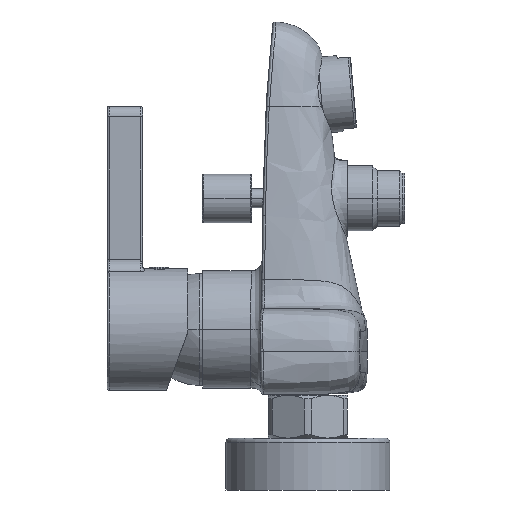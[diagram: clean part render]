
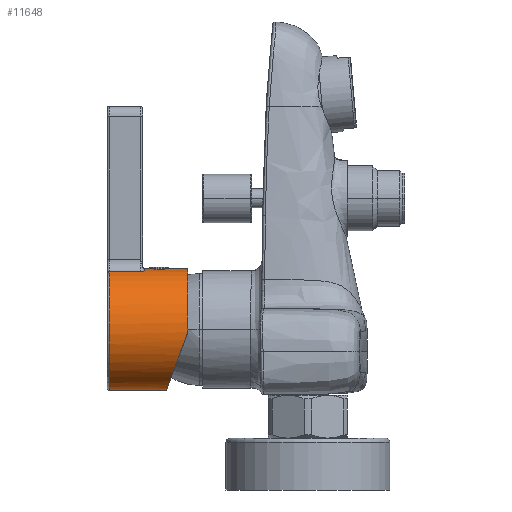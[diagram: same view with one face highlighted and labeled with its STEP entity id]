
A CAD part, left-side view. The second image highlights one B-rep face of the part: STEP entity #11648.
In plain terms, the highlighted cylindrical face has radius 22.25 mm (diameter 44.5 mm), a partial arc.
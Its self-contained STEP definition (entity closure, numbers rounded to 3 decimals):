
#3071=CARTESIAN_POINT('',(0.,51.115,
-66.536));
#3072=CARTESIAN_POINT('',(-1.831,51.115,
-66.536));
#3073=CARTESIAN_POINT('',(-5.055,50.958,
-66.108));
#3074=CARTESIAN_POINT('',(-9.126,50.446,
-64.717));
#3075=CARTESIAN_POINT('',(-12.612,49.724,
-62.754));
#3076=CARTESIAN_POINT('',(-15.601,48.822,
-60.304));
#3077=CARTESIAN_POINT('',(-18.119,47.751,
-57.392));
#3078=CARTESIAN_POINT('',(-20.151,46.505,
-54.005));
#3079=CARTESIAN_POINT('',(-21.63,45.059,
-50.077));
#3080=CARTESIAN_POINT('',(-22.15,43.928,
-47.002));
#3081=CARTESIAN_POINT('',(-22.228,43.297,
-45.286));
#3102=CARTESIAN_POINT('',(0.,43.297,
-44.286));
#3103=DIRECTION('',(0.,1.,0.));
#3104=DIRECTION('',(-0.999,0.,-0.045));
#3105=AXIS2_PLACEMENT_3D('',#3102,#3103,#3104);
#3107=CARTESIAN_POINT('',(0.,50.447,
-22.036));
#3132=CARTESIAN_POINT('',(0.,57.147,
-22.036));
#3134=DIRECTION('',(0.,1.,0.));
#3135=VECTOR('',#3134,1.85);
#3136=CARTESIAN_POINT('',(0.,57.147,
-22.036));
#3137=LINE('',#3136,#3135);
#3158=DIRECTION('',(0.,1.,0.));
#3159=VECTOR('',#3158,7.15);
#3160=CARTESIAN_POINT('',(0.,43.297,
-22.036));
#3161=LINE('',#3160,#3159);
#3166=CARTESIAN_POINT('',(-3.35,53.797,-22.29));
#3167=CARTESIAN_POINT('',(-3.35,53.622,-22.29));
#3168=CARTESIAN_POINT('',(-3.323,53.277,
-22.285));
#3169=CARTESIAN_POINT('',(-3.2,52.757,
-22.267));
#3170=CARTESIAN_POINT('',(-2.995,52.265,
-22.238));
#3171=CARTESIAN_POINT('',(-2.721,51.819,
-22.202));
#3172=CARTESIAN_POINT('',(-2.378,51.417,
-22.162));
#3173=CARTESIAN_POINT('',(-1.97,51.069,
-22.122));
#3174=CARTESIAN_POINT('',(-1.511,50.791,
-22.086));
#3175=CARTESIAN_POINT('',(-1.028,50.594,
-22.058));
#3176=CARTESIAN_POINT('',(-0.517,50.473,
-22.04));
#3177=CARTESIAN_POINT('',(-0.174,50.447,
-22.036));
#3178=CARTESIAN_POINT('',(0.,50.447,
-22.036));
#3180=DIRECTION('',(0.,1.,0.));
#3181=VECTOR('',#3180,20.882);
#3182=CARTESIAN_POINT('',(0.,51.115,
-66.536));
#3183=LINE('',#3182,#3181);
#3184=CARTESIAN_POINT('',(-7.046,60.597,
-23.181));
#3185=CARTESIAN_POINT('',(-7.046,60.499,
-23.181));
#3186=CARTESIAN_POINT('',(-7.03,60.313,
-23.176));
#3187=CARTESIAN_POINT('',(-6.952,60.05,
-23.15));
#3188=CARTESIAN_POINT('',(-6.817,59.818,
-23.106));
#3189=CARTESIAN_POINT('',(-6.629,59.615,
-23.046));
#3190=CARTESIAN_POINT('',(-6.372,59.435,
-22.967));
#3191=CARTESIAN_POINT('',(-6.048,59.286,
-22.873));
#3192=CARTESIAN_POINT('',(-5.667,59.172,
-22.768));
#3193=CARTESIAN_POINT('',(-5.231,59.088,
-22.658));
#3194=CARTESIAN_POINT('',(-4.738,59.033,
-22.544));
#3195=CARTESIAN_POINT('',(-4.191,59.004,
-22.431));
#3196=CARTESIAN_POINT('',(-3.584,58.993,
-22.323));
#3197=CARTESIAN_POINT('',(-3.133,58.997,
-22.256));
#3198=CARTESIAN_POINT('',(-2.896,58.997,
-22.225));
#3200=CARTESIAN_POINT('',(0.,57.147,
-22.036));
#3201=CARTESIAN_POINT('',(-0.193,57.147,
-22.036));
#3202=CARTESIAN_POINT('',(-0.574,57.114,
-22.041));
#3203=CARTESIAN_POINT('',(-1.137,56.966,
-22.063));
#3204=CARTESIAN_POINT('',(-1.669,56.721,
-22.097));
#3205=CARTESIAN_POINT('',(-2.16,56.38,
-22.139));
#3206=CARTESIAN_POINT('',(-2.58,55.96,
-22.185));
#3207=CARTESIAN_POINT('',(-2.912,55.486,
-22.227));
#3208=CARTESIAN_POINT('',(-3.164,54.949,
-22.262));
#3209=CARTESIAN_POINT('',(-3.317,54.373,
-22.284));
#3210=CARTESIAN_POINT('',(-3.35,53.99,-22.29));
#3211=CARTESIAN_POINT('',(-3.35,53.797,-22.29));
#3218=CARTESIAN_POINT('',(0.,71.997,
-44.286));
#3219=DIRECTION('',(0.,-1.,0.));
#3220=DIRECTION('',(-0.317,0.,0.949));
#3221=AXIS2_PLACEMENT_3D('',#3218,#3219,#3220);
#3288=CARTESIAN_POINT('',(0.,58.997,
-44.286));
#3289=DIRECTION('',(0.,-1.,0.));
#3290=DIRECTION('',(0.,0.,1.));
#3291=AXIS2_PLACEMENT_3D('',#3288,#3289,#3290);
#3317=DIRECTION('',(0.,1.,0.));
#3318=VECTOR('',#3317,11.4);
#3319=CARTESIAN_POINT('',(-7.046,60.597,
-23.181));
#3320=LINE('',#3319,#3318);
#3662=CARTESIAN_POINT('',(0.,43.297,
-22.036));
#3664=VERTEX_POINT('',#3662);
#3668=CARTESIAN_POINT('',(-22.228,43.297,
-45.286));
#3669=VERTEX_POINT('',#3668);
#3674=CARTESIAN_POINT('',(0.,71.997,
-66.536));
#3675=VERTEX_POINT('',#3674);
#3676=CARTESIAN_POINT('',(0.,51.115,
-66.536));
#3677=VERTEX_POINT('',#3676);
#3678=CARTESIAN_POINT('',(0.,58.997,
-22.036));
#3679=VERTEX_POINT('',#3678);
#3687=CARTESIAN_POINT('',(-2.896,58.997,
-22.225));
#3688=VERTEX_POINT('',#3687);
#3723=CARTESIAN_POINT('',(-7.046,71.997,
-23.181));
#3724=VERTEX_POINT('',#3723);
#3731=VERTEX_POINT('',#3184);
#3819=VERTEX_POINT('',#3107);
#3821=VERTEX_POINT('',#3132);
#3822=VERTEX_POINT('',#3166);
#11625=CARTESIAN_POINT('',(0.,58.047,
-44.286));
#11626=DIRECTION('',(0.,1.,0.));
#11627=DIRECTION('',(0.,0.,1.));
#11628=AXIS2_PLACEMENT_3D('',#11625,#11626,#11627);
#11629=CYLINDRICAL_SURFACE('',#11628,22.25);
#11630=ORIENTED_EDGE('',*,*,#11614,.T.);
#11631=ORIENTED_EDGE('',*,*,#11603,.F.);
#11632=ORIENTED_EDGE('',*,*,#11575,.F.);
#11633=ORIENTED_EDGE('',*,*,#11555,.F.);
#11634=ORIENTED_EDGE('',*,*,#11599,.T.);
#11636=ORIENTED_EDGE('',*,*,#11635,.F.);
#11638=ORIENTED_EDGE('',*,*,#11637,.F.);
#11640=ORIENTED_EDGE('',*,*,#11639,.T.);
#11642=ORIENTED_EDGE('',*,*,#11641,.F.);
#11643=ORIENTED_EDGE('',*,*,#11589,.F.);
#11645=ORIENTED_EDGE('',*,*,#11644,.T.);
#11646=EDGE_LOOP('',(#11630,#11631,#11632,#11633,#11634,#11636,#11638,#11640,
#11642,#11643,#11645));
#11647=FACE_OUTER_BOUND('',#11646,.F.);
#11648=ADVANCED_FACE('',(#11647),#11629,.T.);
#3082=B_SPLINE_CURVE_WITH_KNOTS('',3,(#3071,#3072,#3073,#3074,#3075,#3076,#3077,
#3078,#3079,#3080,#3081),.UNSPECIFIED.,.F.,.F.,(4,1,1,1,1,1,1,1,4),(0.,
0.125,0.25,0.375,0.5,0.625,0.75,0.875,1.),.UNSPECIFIED.);
#3106=CIRCLE('',#3105,22.25);
#3179=B_SPLINE_CURVE_WITH_KNOTS('',3,(#3166,#3167,#3168,#3169,#3170,#3171,#3172,
#3173,#3174,#3175,#3176,#3177,#3178),.UNSPECIFIED.,.F.,.F.,(4,1,1,1,1,1,1,1,1,1,
4),(0.,0.1,0.2,0.3,0.4,0.5,0.6,0.7,0.8,0.9,1.),
.UNSPECIFIED.);
#3199=B_SPLINE_CURVE_WITH_KNOTS('',3,(#3184,#3185,#3186,#3187,#3188,#3189,#3190,
#3191,#3192,#3193,#3194,#3195,#3196,#3197,#3198),.UNSPECIFIED.,.F.,.F.,(4,1,1,1,
1,1,1,1,1,1,1,1,4),(0.,0.083,0.167,0.25,
0.333,0.417,0.5,0.583,0.667,
0.75,0.833,0.917,1.),.UNSPECIFIED.);
#3212=B_SPLINE_CURVE_WITH_KNOTS('',3,(#3200,#3201,#3202,#3203,#3204,#3205,#3206,
#3207,#3208,#3209,#3210,#3211),.UNSPECIFIED.,.F.,.F.,(4,1,1,1,1,1,1,1,1,4),
(0.,0.111,0.222,0.333,0.444,
0.556,0.667,0.778,0.889,1.),
.UNSPECIFIED.);
#3222=CIRCLE('',#3221,22.25);
#3292=CIRCLE('',#3291,22.25);
#11555=EDGE_CURVE('',#3677,#3669,#3082,.T.);
#11575=EDGE_CURVE('',#3669,#3664,#3106,.T.);
#11589=EDGE_CURVE('',#3821,#3679,#3137,.T.);
#11599=EDGE_CURVE('',#3677,#3675,#3183,.T.);
#11603=EDGE_CURVE('',#3664,#3819,#3161,.T.);
#11614=EDGE_CURVE('',#3822,#3819,#3179,.T.);
#11635=EDGE_CURVE('',#3724,#3675,#3222,.T.);
#11637=EDGE_CURVE('',#3731,#3724,#3320,.T.);
#11639=EDGE_CURVE('',#3731,#3688,#3199,.T.);
#11641=EDGE_CURVE('',#3679,#3688,#3292,.T.);
#11644=EDGE_CURVE('',#3821,#3822,#3212,.T.);
